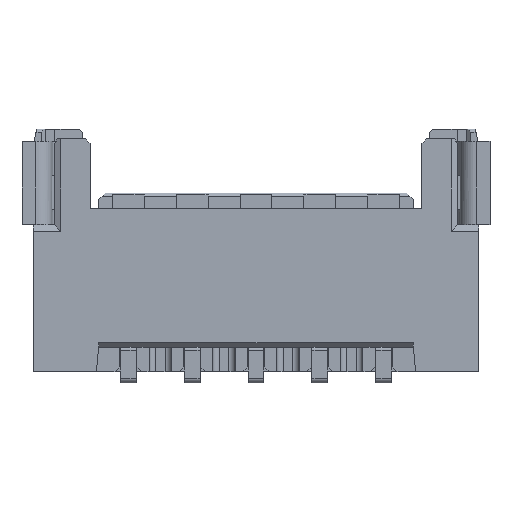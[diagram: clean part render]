
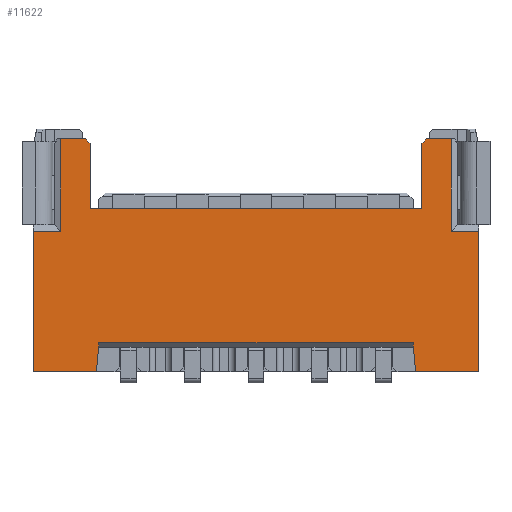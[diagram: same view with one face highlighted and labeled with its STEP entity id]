
A CAD part, top view. The second image highlights one B-rep face of the part: STEP entity #11622.
In plain terms, the highlighted planar face has unit normal (0, 0, 1).
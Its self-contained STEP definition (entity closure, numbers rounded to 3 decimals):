
#512=DIRECTION('',(-1.,0.,0.));
#513=VECTOR('',#512,1.975);
#514=CARTESIAN_POINT('',(14.394,25.776,5.306));
#515=LINE('',#514,#513);
#1068=DIRECTION('',(-1.,0.,0.));
#1069=VECTOR('',#1068,9.843);
#1070=CARTESIAN_POINT('',(12.341,26.676,5.306));
#1071=LINE('',#1070,#1069);
#1124=DIRECTION('',(0.,-1.,0.));
#1125=VECTOR('',#1124,2.05);
#1126=CARTESIAN_POINT('',(12.619,32.926,5.306));
#1127=LINE('',#1126,#1125);
#1128=DIRECTION('',(-0.707,-0.707,0.));
#1129=VECTOR('',#1128,0.212);
#1130=CARTESIAN_POINT('',(12.769,33.076,5.306));
#1131=LINE('',#1130,#1129);
#1132=DIRECTION('',(-1.,0.,0.));
#1133=VECTOR('',#1132,0.765);
#1134=CARTESIAN_POINT('',(13.534,33.076,5.306));
#1135=LINE('',#1134,#1133);
#1136=DIRECTION('',(0.,1.,0.));
#1137=VECTOR('',#1136,2.9);
#1138=CARTESIAN_POINT('',(13.534,30.176,5.306));
#1139=LINE('',#1138,#1137);
#1140=DIRECTION('',(-1.,0.,0.));
#1141=VECTOR('',#1140,0.86);
#1142=CARTESIAN_POINT('',(14.394,30.176,5.306));
#1143=LINE('',#1142,#1141);
#1144=DIRECTION('',(0.087,-0.996,0.));
#1145=VECTOR('',#1144,0.903);
#1146=CARTESIAN_POINT('',(12.341,26.676,5.306));
#1147=LINE('',#1146,#1145);
#1148=DIRECTION('',(0.087,0.996,0.));
#1149=VECTOR('',#1148,0.903);
#1150=CARTESIAN_POINT('',(2.419,25.776,5.306));
#1151=LINE('',#1150,#1149);
#1152=DIRECTION('',(1.,0.,0.));
#1153=VECTOR('',#1152,1.975);
#1154=CARTESIAN_POINT('',(0.444,25.776,5.306));
#1155=LINE('',#1154,#1153);
#1156=DIRECTION('',(0.,-1.,0.));
#1157=VECTOR('',#1156,4.4);
#1158=CARTESIAN_POINT('',(0.444,30.176,5.306));
#1159=LINE('',#1158,#1157);
#1160=DIRECTION('',(-0.707,0.707,0.));
#1161=VECTOR('',#1160,0.212);
#1162=CARTESIAN_POINT('',(2.219,32.926,5.306));
#1163=LINE('',#1162,#1161);
#1172=DIRECTION('',(1.,0.,0.));
#1173=VECTOR('',#1172,10.4);
#1174=CARTESIAN_POINT('',(2.219,30.876,5.306));
#1175=LINE('',#1174,#1173);
#6068=DIRECTION('',(0.,-1.,0.));
#6069=VECTOR('',#6068,4.4);
#6070=CARTESIAN_POINT('',(14.394,30.176,5.306));
#6071=LINE('',#6070,#6069);
#6410=DIRECTION('',(0.,-1.,0.));
#6411=VECTOR('',#6410,2.05);
#6412=CARTESIAN_POINT('',(2.219,32.926,5.306));
#6413=LINE('',#6412,#6411);
#6434=DIRECTION('',(1.,0.,0.));
#6435=VECTOR('',#6434,0.765);
#6436=CARTESIAN_POINT('',(1.304,33.076,5.306));
#6437=LINE('',#6436,#6435);
#6474=DIRECTION('',(0.,1.,0.));
#6475=VECTOR('',#6474,2.9);
#6476=CARTESIAN_POINT('',(1.304,30.176,5.306));
#6477=LINE('',#6476,#6475);
#6490=DIRECTION('',(1.,0.,0.));
#6491=VECTOR('',#6490,0.86);
#6492=CARTESIAN_POINT('',(0.444,30.176,5.306));
#6493=LINE('',#6492,#6491);
#7974=CARTESIAN_POINT('',(12.341,26.676,5.306));
#7975=CARTESIAN_POINT('',(12.419,25.776,5.306));
#7976=VERTEX_POINT('',#7974);
#7977=VERTEX_POINT('',#7975);
#8357=CARTESIAN_POINT('',(13.534,30.176,5.306));
#8359=VERTEX_POINT('',#8357);
#8745=CARTESIAN_POINT('',(2.498,26.676,5.306));
#8747=VERTEX_POINT('',#8745);
#9057=CARTESIAN_POINT('',(1.304,33.076,5.306));
#9058=CARTESIAN_POINT('',(2.069,33.076,5.306));
#9059=VERTEX_POINT('',#9057);
#9060=VERTEX_POINT('',#9058);
#9318=CARTESIAN_POINT('',(12.619,32.926,5.306));
#9320=VERTEX_POINT('',#9318);
#9428=CARTESIAN_POINT('',(14.394,25.776,5.306));
#9429=VERTEX_POINT('',#9428);
#9453=CARTESIAN_POINT('',(13.534,33.076,5.306));
#9454=VERTEX_POINT('',#9453);
#9483=CARTESIAN_POINT('',(12.619,30.876,5.306));
#9485=VERTEX_POINT('',#9483);
#9570=CARTESIAN_POINT('',(14.394,30.176,5.306));
#9571=VERTEX_POINT('',#9570);
#9729=CARTESIAN_POINT('',(0.444,30.176,5.306));
#9730=VERTEX_POINT('',#9729);
#9761=CARTESIAN_POINT('',(0.444,25.776,5.306));
#9762=VERTEX_POINT('',#9761);
#9890=CARTESIAN_POINT('',(12.769,33.076,5.306));
#9891=VERTEX_POINT('',#9890);
#10060=CARTESIAN_POINT('',(1.304,30.176,5.306));
#10061=VERTEX_POINT('',#10060);
#10064=CARTESIAN_POINT('',(2.219,30.876,5.306));
#10065=VERTEX_POINT('',#10064);
#10078=CARTESIAN_POINT('',(2.219,32.926,5.306));
#10079=VERTEX_POINT('',#10078);
#10142=CARTESIAN_POINT('',(2.419,25.776,5.306));
#10143=VERTEX_POINT('',#10142);
#11582=CARTESIAN_POINT('',(-12.581,31.226,
5.306));
#11583=DIRECTION('',(0.,0.,-1.));
#11584=DIRECTION('',(0.,-1.,0.));
#11585=AXIS2_PLACEMENT_3D('',#11582,#11583,#11584);
#11586=PLANE('',#11585);
#11588=ORIENTED_EDGE('',*,*,#11587,.T.);
#11590=ORIENTED_EDGE('',*,*,#11589,.F.);
#11592=ORIENTED_EDGE('',*,*,#11591,.F.);
#11594=ORIENTED_EDGE('',*,*,#11593,.F.);
#11596=ORIENTED_EDGE('',*,*,#11595,.F.);
#11598=ORIENTED_EDGE('',*,*,#11597,.F.);
#11600=ORIENTED_EDGE('',*,*,#11599,.T.);
#11601=ORIENTED_EDGE('',*,*,#10683,.T.);
#11603=ORIENTED_EDGE('',*,*,#11602,.F.);
#11604=ORIENTED_EDGE('',*,*,#11497,.T.);
#11606=ORIENTED_EDGE('',*,*,#11605,.F.);
#11607=ORIENTED_EDGE('',*,*,#10690,.F.);
#11609=ORIENTED_EDGE('',*,*,#11608,.F.);
#11611=ORIENTED_EDGE('',*,*,#11610,.T.);
#11613=ORIENTED_EDGE('',*,*,#11612,.T.);
#11615=ORIENTED_EDGE('',*,*,#11614,.T.);
#11617=ORIENTED_EDGE('',*,*,#11616,.F.);
#11619=ORIENTED_EDGE('',*,*,#11618,.T.);
#11620=EDGE_LOOP('',(#11588,#11590,#11592,#11594,#11596,#11598,#11600,#11601,
#11603,#11604,#11606,#11607,#11609,#11611,#11613,#11615,#11617,#11619));
#11621=FACE_OUTER_BOUND('',#11620,.F.);
#11622=ADVANCED_FACE('',(#11621),#11586,.F.);
#10683=EDGE_CURVE('',#9429,#7977,#515,.T.);
#10690=EDGE_CURVE('',#9762,#10143,#1155,.T.);
#11497=EDGE_CURVE('',#7976,#8747,#1071,.T.);
#11587=EDGE_CURVE('',#10065,#9485,#1175,.T.);
#11589=EDGE_CURVE('',#9320,#9485,#1127,.T.);
#11591=EDGE_CURVE('',#9891,#9320,#1131,.T.);
#11593=EDGE_CURVE('',#9454,#9891,#1135,.T.);
#11595=EDGE_CURVE('',#8359,#9454,#1139,.T.);
#11597=EDGE_CURVE('',#9571,#8359,#1143,.T.);
#11599=EDGE_CURVE('',#9571,#9429,#6071,.T.);
#11602=EDGE_CURVE('',#7976,#7977,#1147,.T.);
#11605=EDGE_CURVE('',#10143,#8747,#1151,.T.);
#11608=EDGE_CURVE('',#9730,#9762,#1159,.T.);
#11610=EDGE_CURVE('',#9730,#10061,#6493,.T.);
#11612=EDGE_CURVE('',#10061,#9059,#6477,.T.);
#11614=EDGE_CURVE('',#9059,#9060,#6437,.T.);
#11616=EDGE_CURVE('',#10079,#9060,#1163,.T.);
#11618=EDGE_CURVE('',#10079,#10065,#6413,.T.);
